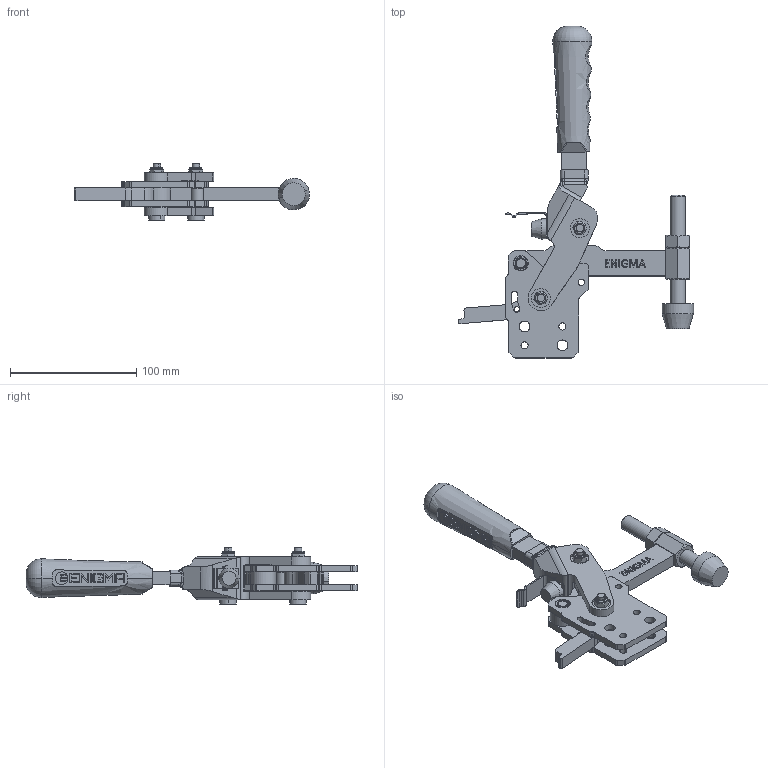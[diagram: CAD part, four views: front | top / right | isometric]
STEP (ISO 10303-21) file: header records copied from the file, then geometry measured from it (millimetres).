
FILE_DESCRIPTION (( 'STEP AP203' ), '1' );
FILE_NAME ('1553_D.STEP', '2022-12-02T10:12:07', ( '' ), ( '' ), 'SwSTEP 2.0', 'SolidWorks 2023', '' );
FILE_SCHEMA (( 'CONFIG_CONTROL_DESIGN' ));
Length unit declared in the file: millimetre
Products named in the file (18): Baskı M12_Varsayılan; 1533_dovme mafsal_Varsayılan; 1533_M12 Lama Ön Somunu_Varsayılan; 1533_baskı kolu_Varsayılan; 1533_mafsal_Varsayılan; 1533_hareket kolu_Varsayılan; C100_T_10x20(YENİ_TUTAMAK_10x20)_Varsayılan; 1533_cap8x18_ara mesafe burcu_Varsayılan; M12 Somun_Varsayılan; yaprak yay_Varsayılan; M6 fiberli Somun_Varsayılan; Burc_1503_12x8x5_Varsayılan; 1533_Cap8x20 Tırtıllı Pim_Varsayılan; 1553_D; 1533_Arka Kilit_Varsayılan; G39x6x8x30_Varsayılan; AS_3_D_G_Varsayılan; 1533_cap5x10_on paralel burc_Varsayılan
Assembly tree (30 placements, depth 2):
  1553_D
    1533_baskı kolu_Varsayılan
    1533_mafsal_Varsayılan  x2
    1533_dovme mafsal_Varsayılan
    1533_hareket kolu_Varsayılan
    G39x6x8x30_Varsayılan  x2
    M6 fiberli Somun_Varsayılan  x2
    1533_Cap8x20 Tırtıllı Pim_Varsayılan  x2
    1533_cap8x18_ara mesafe burcu_Varsayılan  x2
    Burc_1503_12x8x5_Varsayılan  x8
    1533_cap5x10_on paralel burc_Varsayılan
    yaprak yay_Varsayılan
    1533_Arka Kilit_Varsayılan
    M12 Somun_Varsayılan
    1533_M12 Lama Ön Somunu_Varsayılan
    Baskı M12_Varsayılan
    C100_T_10x20(YENİ_TUTAMAK_10x20)_Varsayılan
    AS_3_D_G_Varsayılan  x2
Bounding box: 186.35 x 263.22 x 44.5 mm (x, y, z)
Volume: 233777.1 mm3; surface area: 99750.8 mm2
Topology: 30 solids, 30 shells, 1722 faces, 4457 edges, 2914 vertices
Faces by surface type: plane 1103, cylinder 333, cone 140, bspline 128, torus 18
Entity records: 37539 total; most frequent: CARTESIAN_POINT 12295, ORIENTED_EDGE 5028, DIRECTION 4374, EDGE_CURVE 2514, VERTEX_POINT 1646, LINE 1528, VECTOR 1528, AXIS2_PLACEMENT_3D 1423
